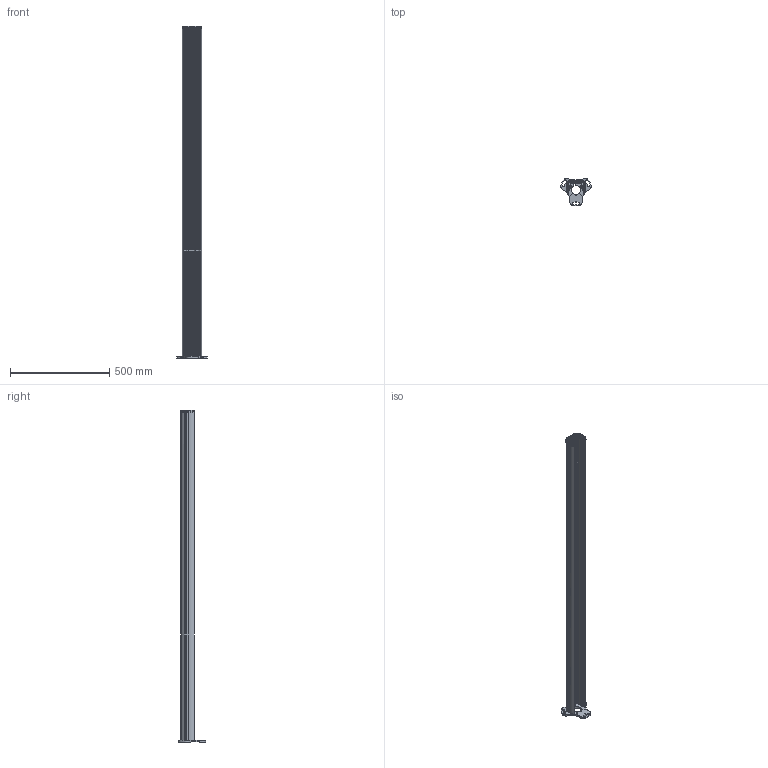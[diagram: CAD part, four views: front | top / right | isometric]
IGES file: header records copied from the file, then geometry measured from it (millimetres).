
Global section: file name: H306222_A_protective_column_165_PSEN_opII_Kundendaten; native system: Autodesk Inventor 2019; preprocessor: unknown; author: damb; date: 20190702.124613; units: millimetre
Bounding box: 153.46 x 139.2 x 1674.3 mm (x, y, z)
Volume: 2392462.1 mm3; surface area: 1503249.4 mm2
Topology: 40 solids, 40 shells, 2352 faces, 5637 edges, 3342 vertices
Faces by surface type: bspline 2352
